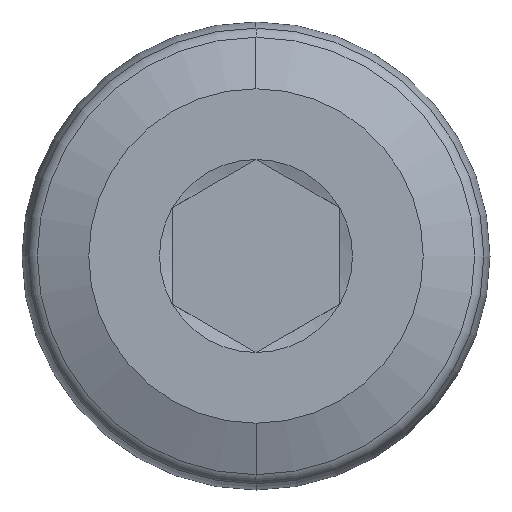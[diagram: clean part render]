
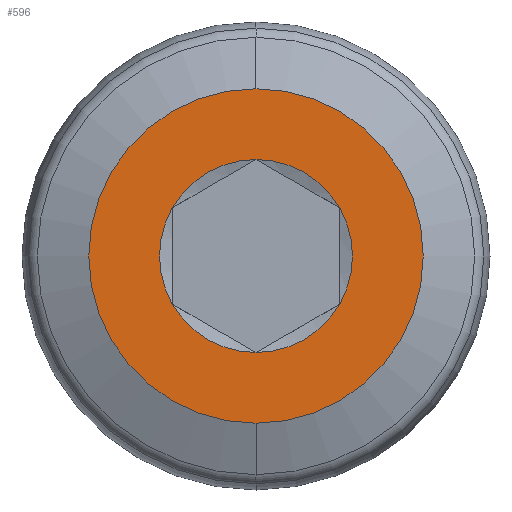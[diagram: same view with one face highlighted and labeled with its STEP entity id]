
A CAD part, left-side view. The second image highlights one B-rep face of the part: STEP entity #596.
In plain terms, the highlighted planar face has unit normal (-1, 0, 0).
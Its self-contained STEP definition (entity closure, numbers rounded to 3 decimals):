
#3 = AXIS2_PLACEMENT_3D ( 'NONE', #604, #249, #561 ) ;
#22 = DIRECTION ( 'NONE',  ( 1., 0., 0. ) ) ;
#28 = EDGE_CURVE ( 'NONE', #186, #624, #549, .T. ) ;
#35 = DIRECTION ( 'NONE',  ( 0., 0., -1. ) ) ;
#51 = ORIENTED_EDGE ( 'NONE', *, *, #582, .F. ) ;
#54 = EDGE_CURVE ( 'NONE', #640, #710, #690, .T. ) ;
#60 = CIRCLE ( 'NONE', #523, 5. ) ;
#64 = DIRECTION ( 'NONE',  ( 1., 0., 0. ) ) ;
#72 = CARTESIAN_POINT ( 'NONE',  ( 0., -2.5, -1.443 ) ) ;
#76 = CARTESIAN_POINT ( 'NONE',  ( 0., 0., 0. ) ) ;
#81 = CARTESIAN_POINT ( 'NONE',  ( 0., 0., 0. ) ) ;
#107 = AXIS2_PLACEMENT_3D ( 'NONE', #663, #541, #811 ) ;
#118 = EDGE_CURVE ( 'NONE', #624, #236, #298, .T. ) ;
#123 = AXIS2_PLACEMENT_3D ( 'NONE', #200, #454, #335 ) ;
#148 = VERTEX_POINT ( 'NONE', #739 ) ;
#164 = AXIS2_PLACEMENT_3D ( 'NONE', #81, #283, #787 ) ;
#175 = CIRCLE ( 'NONE', #533, 2.887 ) ;
#186 = VERTEX_POINT ( 'NONE', #358 ) ;
#188 = CARTESIAN_POINT ( 'NONE',  ( 0., 0., -2.887 ) ) ;
#194 = DIRECTION ( 'NONE',  ( 0., 0., -1. ) ) ;
#200 = CARTESIAN_POINT ( 'NONE',  ( 0., 0., 0. ) ) ;
#207 = CIRCLE ( 'NONE', #123, 2.887 ) ;
#210 = EDGE_CURVE ( 'NONE', #710, #441, #175, .T. ) ;
#226 = CARTESIAN_POINT ( 'NONE',  ( 0., 5., 0. ) ) ;
#236 = VERTEX_POINT ( 'NONE', #72 ) ;
#248 = ORIENTED_EDGE ( 'NONE', *, *, #461, .T. ) ;
#249 = DIRECTION ( 'NONE',  ( 1., 0., 0. ) ) ;
#268 = CARTESIAN_POINT ( 'NONE',  ( 0., 0., -5. ) ) ;
#283 = DIRECTION ( 'NONE',  ( 1., 0., 0. ) ) ;
#298 = CIRCLE ( 'NONE', #107, 2.887 ) ;
#335 = DIRECTION ( 'NONE',  ( 0., 0., -1. ) ) ;
#353 = DIRECTION ( 'NONE',  ( 1., 0., 0. ) ) ;
#358 = CARTESIAN_POINT ( 'NONE',  ( 0., 0., 2.887 ) ) ;
#367 = AXIS2_PLACEMENT_3D ( 'NONE', #800, #353, #35 ) ;
#406 = AXIS2_PLACEMENT_3D ( 'NONE', #226, #682, #504 ) ;
#428 = EDGE_LOOP ( 'NONE', ( #542, #433, #705, #248, #660, #630 ) ) ;
#433 = ORIENTED_EDGE ( 'NONE', *, *, #28, .T. ) ;
#441 = VERTEX_POINT ( 'NONE', #776 ) ;
#445 = ORIENTED_EDGE ( 'NONE', *, *, #818, .F. ) ;
#454 = DIRECTION ( 'NONE',  ( 1., 0., 0. ) ) ;
#461 = EDGE_CURVE ( 'NONE', #236, #640, #207, .T. ) ;
#471 = CIRCLE ( 'NONE', #3, 2.887 ) ;
#504 = DIRECTION ( 'NONE',  ( 0., 0., 1. ) ) ;
#520 = EDGE_CURVE ( 'NONE', #441, #186, #471, .T. ) ;
#523 = AXIS2_PLACEMENT_3D ( 'NONE', #539, #790, #658 ) ;
#533 = AXIS2_PLACEMENT_3D ( 'NONE', #761, #64, #194 ) ;
#537 = PLANE ( 'NONE',  #406 ) ;
#539 = CARTESIAN_POINT ( 'NONE',  ( 0., 0., 0. ) ) ;
#541 = DIRECTION ( 'NONE',  ( 1., 0., 0. ) ) ;
#542 = ORIENTED_EDGE ( 'NONE', *, *, #520, .T. ) ;
#549 = CIRCLE ( 'NONE', #164, 2.887 ) ;
#559 = DIRECTION ( 'NONE',  ( 0., 0., -1. ) ) ;
#561 = DIRECTION ( 'NONE',  ( 0., 0., -1. ) ) ;
#582 = EDGE_CURVE ( 'NONE', #713, #148, #763, .T. ) ;
#586 = CARTESIAN_POINT ( 'NONE',  ( 0., 2.5, -1.443 ) ) ;
#596 = ADVANCED_FACE ( 'NONE', ( #626, #755 ), #537, .T. ) ;
#604 = CARTESIAN_POINT ( 'NONE',  ( 0., 0., 0. ) ) ;
#607 = CARTESIAN_POINT ( 'NONE',  ( 0., -2.5, 1.443 ) ) ;
#624 = VERTEX_POINT ( 'NONE', #607 ) ;
#626 = FACE_BOUND ( 'NONE', #428, .T. ) ;
#630 = ORIENTED_EDGE ( 'NONE', *, *, #210, .T. ) ;
#640 = VERTEX_POINT ( 'NONE', #188 ) ;
#658 = DIRECTION ( 'NONE',  ( 0., 0., -1. ) ) ;
#660 = ORIENTED_EDGE ( 'NONE', *, *, #54, .T. ) ;
#663 = CARTESIAN_POINT ( 'NONE',  ( 0., 0., 0. ) ) ;
#682 = DIRECTION ( 'NONE',  ( -1., 0., 0. ) ) ;
#690 = CIRCLE ( 'NONE', #831, 2.887 ) ;
#705 = ORIENTED_EDGE ( 'NONE', *, *, #118, .T. ) ;
#710 = VERTEX_POINT ( 'NONE', #586 ) ;
#713 = VERTEX_POINT ( 'NONE', #268 ) ;
#739 = CARTESIAN_POINT ( 'NONE',  ( 0., 0., 5. ) ) ;
#755 = FACE_OUTER_BOUND ( 'NONE', #821, .T. ) ;
#761 = CARTESIAN_POINT ( 'NONE',  ( 0., 0., 0. ) ) ;
#763 = CIRCLE ( 'NONE', #367, 5. ) ;
#776 = CARTESIAN_POINT ( 'NONE',  ( 0., 2.5, 1.443 ) ) ;
#787 = DIRECTION ( 'NONE',  ( 0., 0., -1. ) ) ;
#790 = DIRECTION ( 'NONE',  ( 1., 0., 0. ) ) ;
#800 = CARTESIAN_POINT ( 'NONE',  ( 0., 0., 0. ) ) ;
#811 = DIRECTION ( 'NONE',  ( 0., 0., -1. ) ) ;
#818 = EDGE_CURVE ( 'NONE', #148, #713, #60, .T. ) ;
#821 = EDGE_LOOP ( 'NONE', ( #51, #445 ) ) ;
#831 = AXIS2_PLACEMENT_3D ( 'NONE', #76, #22, #559 ) ;
